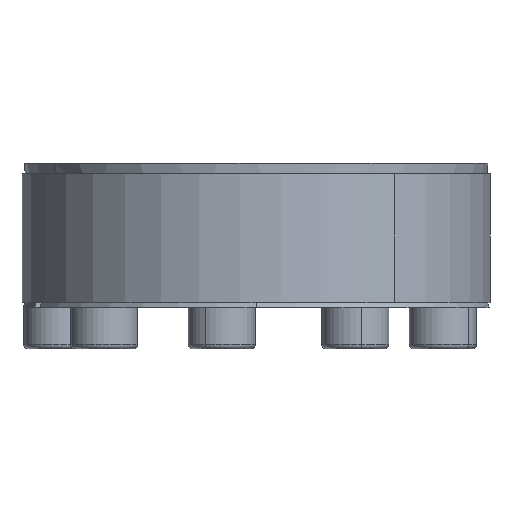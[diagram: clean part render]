
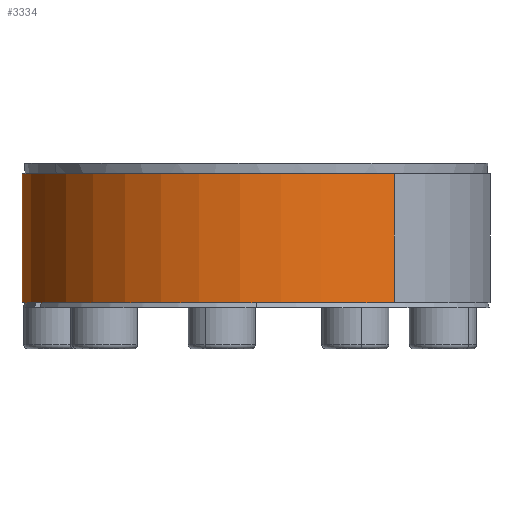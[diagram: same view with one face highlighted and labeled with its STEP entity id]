
A CAD part, left-side view. The second image highlights one B-rep face of the part: STEP entity #3334.
In plain terms, the highlighted cylindrical face has radius 45.485 mm (diameter 90.97 mm), a partial arc.
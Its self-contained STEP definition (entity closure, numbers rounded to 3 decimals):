
#40 = DIRECTION ( 'NONE',  ( 0., 0., -1. ) ) ;
#685 = ORIENTED_EDGE ( 'NONE', *, *, #1130, .F. ) ;
#916 = LINE ( 'NONE', #4786, #11638 ) ;
#954 = VERTEX_POINT ( 'NONE', #11523 ) ;
#1130 = EDGE_CURVE ( 'NONE', #9211, #3131, #4924, .T. ) ;
#2192 = CARTESIAN_POINT ( 'NONE',  ( -36.798, -26.735, 25.969 ) ) ;
#2761 = EDGE_CURVE ( 'NONE', #954, #3131, #6553, .T. ) ;
#3060 = CARTESIAN_POINT ( 'NONE',  ( 0., 0., 0.969 ) ) ;
#3131 = VERTEX_POINT ( 'NONE', #8189 ) ;
#3334 = ADVANCED_FACE ( 'NONE', ( #13835 ), #10006, .T. ) ;
#3543 = CIRCLE ( 'NONE', #4838, 45.485 ) ;
#4170 = DIRECTION ( 'NONE',  ( -0.809, -0.588, 0. ) ) ;
#4323 = DIRECTION ( 'NONE',  ( 0.809, 0.588, 0. ) ) ;
#4451 = CARTESIAN_POINT ( 'NONE',  ( 36.798, 26.735, 25.969 ) ) ;
#4758 = EDGE_CURVE ( 'NONE', #6526, #954, #916, .T. ) ;
#4786 = CARTESIAN_POINT ( 'NONE',  ( 36.798, 26.735, 25.969 ) ) ;
#4838 = AXIS2_PLACEMENT_3D ( 'NONE', #11500, #5085, #12594 ) ;
#4924 = LINE ( 'NONE', #2192, #10622 ) ;
#5085 = DIRECTION ( 'NONE',  ( 0., 0., 1. ) ) ;
#5831 = DIRECTION ( 'NONE',  ( 0., 0., -1. ) ) ;
#6526 = VERTEX_POINT ( 'NONE', #4451 ) ;
#6553 = CIRCLE ( 'NONE', #13705, 45.485 ) ;
#6726 = ORIENTED_EDGE ( 'NONE', *, *, #7446, .F. ) ;
#7132 = CARTESIAN_POINT ( 'NONE',  ( -36.798, -26.735, 25.969 ) ) ;
#7446 = EDGE_CURVE ( 'NONE', #6526, #9211, #3543, .T. ) ;
#8189 = CARTESIAN_POINT ( 'NONE',  ( -36.798, -26.735, 0.969 ) ) ;
#8295 = AXIS2_PLACEMENT_3D ( 'NONE', #12841, #40, #4323 ) ;
#9211 = VERTEX_POINT ( 'NONE', #7132 ) ;
#9213 = ORIENTED_EDGE ( 'NONE', *, *, #2761, .T. ) ;
#9535 = ORIENTED_EDGE ( 'NONE', *, *, #4758, .T. ) ;
#10006 = CYLINDRICAL_SURFACE ( 'NONE', #8295, 45.485 ) ;
#10494 = EDGE_LOOP ( 'NONE', ( #685, #6726, #9535, #9213 ) ) ;
#10583 = DIRECTION ( 'NONE',  ( 0., 0., 1. ) ) ;
#10622 = VECTOR ( 'NONE', #12818, 1000. ) ;
#11500 = CARTESIAN_POINT ( 'NONE',  ( 0., 0., 25.969 ) ) ;
#11523 = CARTESIAN_POINT ( 'NONE',  ( 36.798, 26.735, 0.969 ) ) ;
#11638 = VECTOR ( 'NONE', #5831, 1000. ) ;
#12594 = DIRECTION ( 'NONE',  ( -0.809, -0.588, 0. ) ) ;
#12818 = DIRECTION ( 'NONE',  ( 0., 0., -1. ) ) ;
#12841 = CARTESIAN_POINT ( 'NONE',  ( 0., 0., 25.969 ) ) ;
#13705 = AXIS2_PLACEMENT_3D ( 'NONE', #3060, #10583, #4170 ) ;
#13835 = FACE_OUTER_BOUND ( 'NONE', #10494, .T. ) ;
